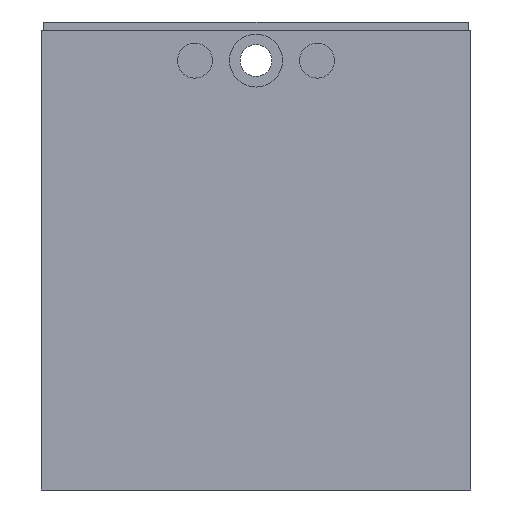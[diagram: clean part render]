
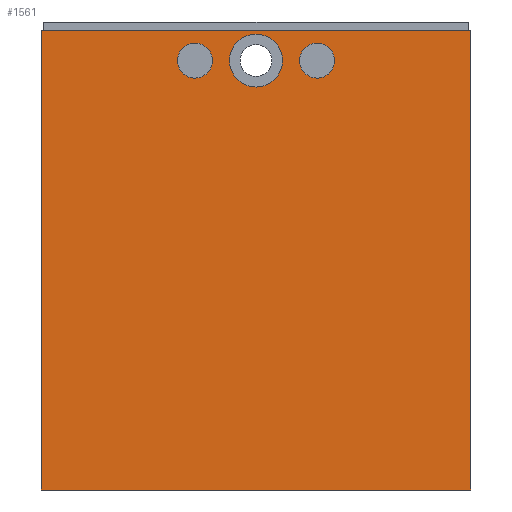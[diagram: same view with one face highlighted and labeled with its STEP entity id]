
A CAD part, left-side view. The second image highlights one B-rep face of the part: STEP entity #1561.
In plain terms, the highlighted planar face has unit normal (-1, 0, 0).
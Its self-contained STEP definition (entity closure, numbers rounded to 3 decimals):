
#321=DIRECTION('',(0.,0.,1.));
#322=VECTOR('',#321,67.77);
#323=CARTESIAN_POINT('',(-12.7,31.65,-69.));
#324=LINE('',#323,#322);
#345=CARTESIAN_POINT('',(-12.7,0.,-5.69));
#346=DIRECTION('',(-1.,0.,0.));
#347=DIRECTION('',(0.,1.,0.));
#348=AXIS2_PLACEMENT_3D('',#345,#346,#347);
#350=CARTESIAN_POINT('',(-12.7,0.,-5.69));
#351=DIRECTION('',(-1.,0.,0.));
#352=DIRECTION('',(0.,-1.,0.));
#353=AXIS2_PLACEMENT_3D('',#350,#351,#352);
#355=CARTESIAN_POINT('',(-12.7,-9.,-5.69));
#356=DIRECTION('',(1.,0.,0.));
#357=DIRECTION('',(0.,1.,0.));
#358=AXIS2_PLACEMENT_3D('',#355,#356,#357);
#360=CARTESIAN_POINT('',(-12.7,-9.,-5.69));
#361=DIRECTION('',(1.,0.,0.));
#362=DIRECTION('',(0.,-1.,0.));
#363=AXIS2_PLACEMENT_3D('',#360,#361,#362);
#365=CARTESIAN_POINT('',(-12.7,9.,-5.69));
#366=DIRECTION('',(1.,0.,0.));
#367=DIRECTION('',(0.,1.,0.));
#368=AXIS2_PLACEMENT_3D('',#365,#366,#367);
#370=CARTESIAN_POINT('',(-12.7,9.,-5.69));
#371=DIRECTION('',(1.,0.,0.));
#372=DIRECTION('',(0.,-1.,0.));
#373=AXIS2_PLACEMENT_3D('',#370,#371,#372);
#375=DIRECTION('',(0.,1.,0.));
#376=VECTOR('',#375,63.3);
#377=CARTESIAN_POINT('',(-12.7,-31.65,-1.23));
#378=LINE('',#377,#376);
#379=DIRECTION('',(0.,1.,0.));
#380=VECTOR('',#379,63.3);
#381=CARTESIAN_POINT('',(-12.7,-31.65,-69.));
#382=LINE('',#381,#380);
#533=DIRECTION('',(0.,0.,1.));
#534=VECTOR('',#533,67.77);
#535=CARTESIAN_POINT('',(-12.7,-31.65,-69.));
#536=LINE('',#535,#534);
#777=CARTESIAN_POINT('',(-12.7,-31.65,-69.));
#778=CARTESIAN_POINT('',(-12.7,31.65,-69.));
#779=VERTEX_POINT('',#777);
#780=VERTEX_POINT('',#778);
#789=CARTESIAN_POINT('',(-12.7,-6.418,-5.69));
#790=CARTESIAN_POINT('',(-12.7,-11.583,-5.69));
#791=VERTEX_POINT('',#789);
#792=VERTEX_POINT('',#790);
#801=CARTESIAN_POINT('',(-12.7,3.9,-5.69));
#802=CARTESIAN_POINT('',(-12.7,-3.9,-5.69));
#803=VERTEX_POINT('',#801);
#804=VERTEX_POINT('',#802);
#813=CARTESIAN_POINT('',(-12.7,-31.65,-1.23));
#814=CARTESIAN_POINT('',(-12.7,31.65,-1.23));
#815=VERTEX_POINT('',#813);
#816=VERTEX_POINT('',#814);
#867=CARTESIAN_POINT('',(-12.7,11.583,-5.69));
#868=CARTESIAN_POINT('',(-12.7,6.418,-5.69));
#869=VERTEX_POINT('',#867);
#870=VERTEX_POINT('',#868);
#1530=CARTESIAN_POINT('',(-12.7,-31.65,-69.));
#1531=DIRECTION('',(-1.,0.,0.));
#1532=DIRECTION('',(0.,0.,1.));
#1533=AXIS2_PLACEMENT_3D('',#1530,#1531,#1532);
#1534=PLANE('',#1533);
#1535=ORIENTED_EDGE('',*,*,#1521,.F.);
#1537=ORIENTED_EDGE('',*,*,#1536,.F.);
#1539=ORIENTED_EDGE('',*,*,#1538,.T.);
#1540=ORIENTED_EDGE('',*,*,#1493,.T.);
#1541=EDGE_LOOP('',(#1535,#1537,#1539,#1540));
#1542=FACE_OUTER_BOUND('',#1541,.F.);
#1544=ORIENTED_EDGE('',*,*,#1543,.T.);
#1546=ORIENTED_EDGE('',*,*,#1545,.T.);
#1547=EDGE_LOOP('',(#1544,#1546));
#1548=FACE_BOUND('',#1547,.F.);
#1550=ORIENTED_EDGE('',*,*,#1549,.F.);
#1552=ORIENTED_EDGE('',*,*,#1551,.F.);
#1553=EDGE_LOOP('',(#1550,#1552));
#1554=FACE_BOUND('',#1553,.F.);
#1556=ORIENTED_EDGE('',*,*,#1555,.F.);
#1558=ORIENTED_EDGE('',*,*,#1557,.F.);
#1559=EDGE_LOOP('',(#1556,#1558));
#1560=FACE_BOUND('',#1559,.F.);
#1561=ADVANCED_FACE('',(#1542,#1548,#1554,#1560),#1534,.T.);
#349=CIRCLE('',#348,3.9);
#354=CIRCLE('',#353,3.9);
#359=CIRCLE('',#358,2.583);
#364=CIRCLE('',#363,2.583);
#369=CIRCLE('',#368,2.583);
#374=CIRCLE('',#373,2.583);
#1493=EDGE_CURVE('',#780,#816,#324,.T.);
#1521=EDGE_CURVE('',#815,#816,#378,.T.);
#1536=EDGE_CURVE('',#779,#815,#536,.T.);
#1538=EDGE_CURVE('',#779,#780,#382,.T.);
#1543=EDGE_CURVE('',#803,#804,#349,.T.);
#1545=EDGE_CURVE('',#804,#803,#354,.T.);
#1549=EDGE_CURVE('',#791,#792,#359,.T.);
#1551=EDGE_CURVE('',#792,#791,#364,.T.);
#1555=EDGE_CURVE('',#869,#870,#369,.T.);
#1557=EDGE_CURVE('',#870,#869,#374,.T.);
